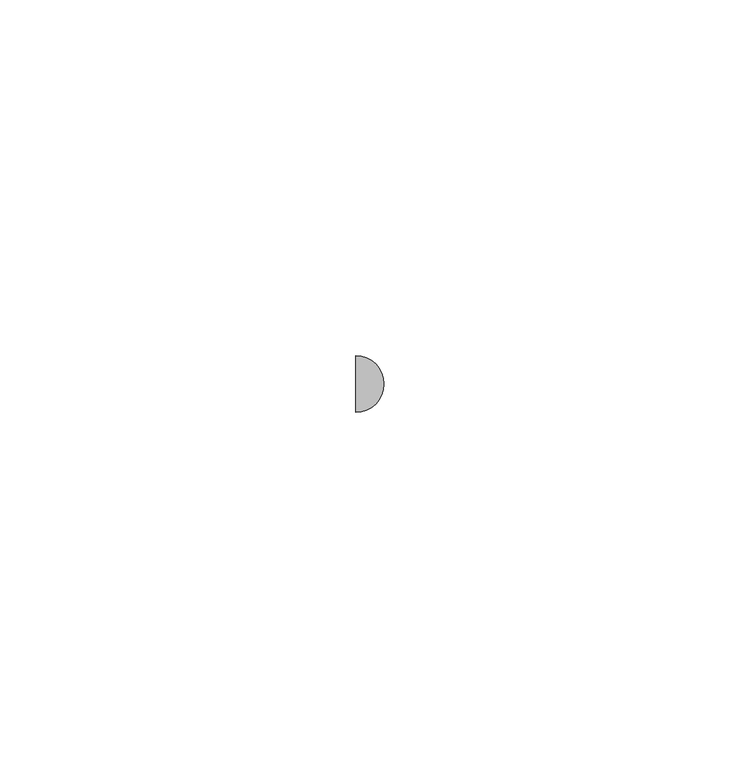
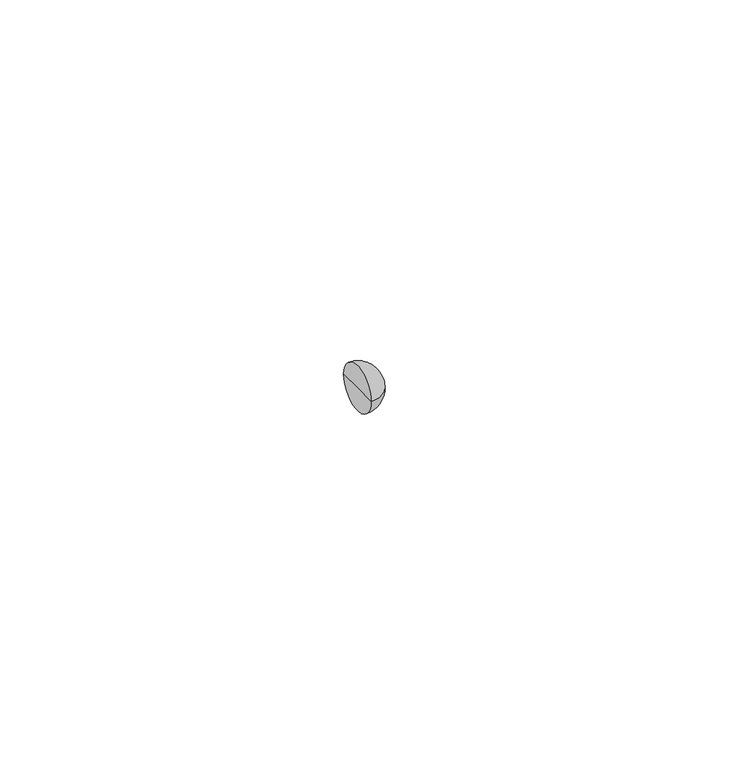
"""IFC4 building model written with IfcOpenShell, lengths in millimetres: pipe fitting geometry, UN_PIF_PP assembled branch S-Sp_reducing_PipeLife : Black, var. DN/OD (max. ø125)."""

from ifc_helpers import new_model, si_unit, point, frame, origin, place, context, project, spatial, circle_curve, ellipse_curve, trimmed, source, transform, mapped, element, save
from ifc_brep_helpers import plane_surface, revolved_surface, advanced_brep


def pipe_fitting_edb0aff2(model_context):
    return source(origin(), model_context, "Body", "AdvancedBrep", [
        advanced_brep(
        [(-203.176634, 0.0, 0.0), (-203.176634, 4.0, 0.0), (-203.176634, -4.0, 0.0), (-199.176634, 0.0, 0.0)],
        [
            (0, 1),
            (1, 2, circle_curve(frame((-203.176634, 0.0, 0.0), z_axis=(-1.0, 0.0, 0.0), x_axis=(0.0, 1.0, 0.0)), 4.0)),
            (2, 0),
            (2, 1, circle_curve(frame((-203.176634, 0.0, 0.0), z_axis=(-1.0, 0.0, 0.0), x_axis=(0.0, 1.0, 0.0)), 4.0)),
            (1, 3, circle_curve(frame((-203.176634, 0.0, 0.0), z_axis=(0.0, 0.0, -1.0), x_axis=(1.0, 0.0, 0.0)), 4.0)),
            (3, 2, circle_curve(frame((-203.176634, 0.0, 0.0), z_axis=(0.0, 0.0, -1.0), x_axis=(1.0, 0.0, 0.0)), 4.0)),
        ],
        [
            plane_surface(frame((-203.176634, 0.0, 0.0), z_axis=(-1.0, 0.0, 0.0), x_axis=(0.0, 1.0, 0.0))),
            revolved_surface(trimmed(ellipse_curve(frame((-203.176634, 0.0, 0.0), z_axis=(0.0, 0.0, 1.0), x_axis=(1.0, 0.0, 0.0)), 4.0, 4.0), [point((-199.176634, 0.0, 0.0))], [point((-203.176634, 4.0, 0.0))], True, "CARTESIAN"), (-216.3635531, 0.0, 0.0), (-1.0, 0.0, 0.0)),
        ],
        [
            (0, [[1, 2, 3]]),
            (0, [[-3, 4, -1]]),
            (1, [[-2, 5, 6]]),
            (1, [[-4, -6, -5]]),
        ],
    ),
    ])


if __name__ == "__main__":
    model = new_model("IFC4")
    model_context = context("Model", 3, world=origin())
    ifc_project = project(units=[si_unit("LENGTHUNIT", "METRE", prefix="MILLI")], contexts=[model_context])
    site = spatial("IfcSite", under=ifc_project)
    building = spatial("IfcBuilding", under=site)
    placement = place(None, origin())
    pipe_fitting_shape = pipe_fitting_edb0aff2(model_context)
    element("IfcPipeFitting", 1, ObjectType="UN_PIF_PP assembled branch S-Sp_reducing_PipeLife : Black, var. DN/OD (max. ø125)", at=placement, inside=building, context=model_context, shape_type="MappedRepresentation", body=[
        mapped(pipe_fitting_shape, transform((0.0, 0.0, 0.0), x_axis=(1.0, 0.0, 0.0), y_axis=(0.0, 1.0, 0.0), z_axis=(0.0, 0.0, 1.0))),
    ])
    save(model, "model.ifc")
